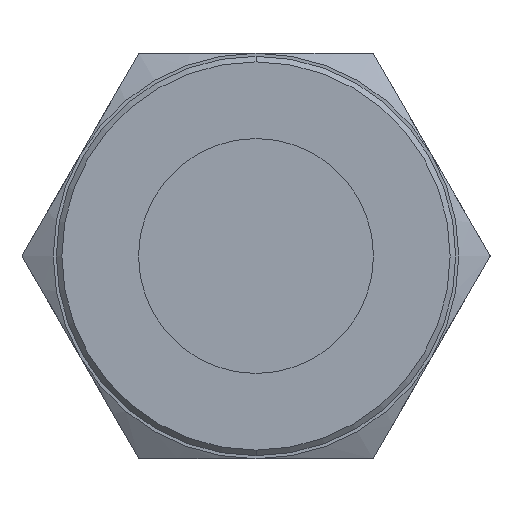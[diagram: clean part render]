
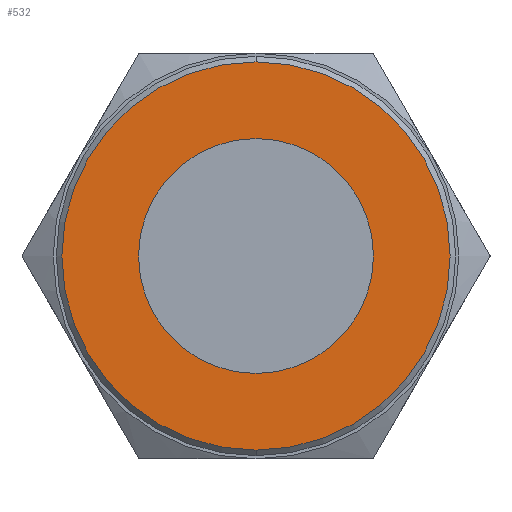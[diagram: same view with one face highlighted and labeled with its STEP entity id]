
A CAD part, left-side view. The second image highlights one B-rep face of the part: STEP entity #532.
In plain terms, the highlighted planar face has unit normal (-1, 0, 0).
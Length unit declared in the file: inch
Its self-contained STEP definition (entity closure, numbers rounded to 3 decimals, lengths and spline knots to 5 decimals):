
#152 = DIRECTION ( 'NONE',  ( 0., 0., -1. ) ) ;
#532 = ADVANCED_FACE ( 'NONE', ( #2415, #7448 ), #8103, .F. ) ;
#672 = VERTEX_POINT ( 'NONE', #14270 ) ;
#1213 = DIRECTION ( 'NONE',  ( 1., 0., 0. ) ) ;
#1222 = EDGE_CURVE ( 'NONE', #12098, #8469, #4911, .T. ) ;
#1471 = DIRECTION ( 'NONE',  ( -1., 0., 0. ) ) ;
#2013 = DIRECTION ( 'NONE',  ( 1., 0., 0. ) ) ;
#2373 = EDGE_CURVE ( 'NONE', #5119, #672, #4509, .T. ) ;
#2415 = FACE_OUTER_BOUND ( 'NONE', #2640, .T. ) ;
#2640 = EDGE_LOOP ( 'NONE', ( #3674, #3772 ) ) ;
#3069 = DIRECTION ( 'NONE',  ( 0., 0., -1. ) ) ;
#3674 = ORIENTED_EDGE ( 'NONE', *, *, #1222, .T. ) ;
#3683 = CARTESIAN_POINT ( 'NONE',  ( -0.392, 0., 0. ) ) ;
#3772 = ORIENTED_EDGE ( 'NONE', *, *, #7785, .T. ) ;
#4383 = AXIS2_PLACEMENT_3D ( 'NONE', #7731, #1471, #152 ) ;
#4509 = CIRCLE ( 'NONE', #11881, 0.2535 ) ;
#4521 = DIRECTION ( 'NONE',  ( -1., 0., 0. ) ) ;
#4839 = EDGE_LOOP ( 'NONE', ( #15818, #10134 ) ) ;
#4911 = CIRCLE ( 'NONE', #4383, 0.419 ) ;
#5119 = VERTEX_POINT ( 'NONE', #12795 ) ;
#7251 = EDGE_CURVE ( 'NONE', #672, #5119, #15826, .T. ) ;
#7448 = FACE_BOUND ( 'NONE', #4839, .T. ) ;
#7731 = CARTESIAN_POINT ( 'NONE',  ( -0.392, 0., 0. ) ) ;
#7785 = EDGE_CURVE ( 'NONE', #8469, #12098, #14544, .T. ) ;
#7852 = DIRECTION ( 'NONE',  ( 1., 0., 0. ) ) ;
#8103 = PLANE ( 'NONE',  #11418 ) ;
#8469 = VERTEX_POINT ( 'NONE', #9718 ) ;
#8751 = AXIS2_PLACEMENT_3D ( 'NONE', #13293, #2013, #14017 ) ;
#9718 = CARTESIAN_POINT ( 'NONE',  ( -0.392, 0., 0.419 ) ) ;
#10113 = DIRECTION ( 'NONE',  ( 0., 0., -1. ) ) ;
#10134 = ORIENTED_EDGE ( 'NONE', *, *, #2373, .T. ) ;
#10574 = CARTESIAN_POINT ( 'NONE',  ( -0.392, -0.50518, 0. ) ) ;
#11418 = AXIS2_PLACEMENT_3D ( 'NONE', #10574, #7852, #3069 ) ;
#11881 = AXIS2_PLACEMENT_3D ( 'NONE', #3683, #1213, #10113 ) ;
#12098 = VERTEX_POINT ( 'NONE', #14491 ) ;
#12102 = DIRECTION ( 'NONE',  ( 0., 0., -1. ) ) ;
#12795 = CARTESIAN_POINT ( 'NONE',  ( -0.392, 0., 0.2535 ) ) ;
#13293 = CARTESIAN_POINT ( 'NONE',  ( -0.392, 0., 0. ) ) ;
#14017 = DIRECTION ( 'NONE',  ( 0., 0., -1. ) ) ;
#14270 = CARTESIAN_POINT ( 'NONE',  ( -0.392, 0., -0.2535 ) ) ;
#14287 = AXIS2_PLACEMENT_3D ( 'NONE', #15781, #4521, #12102 ) ;
#14491 = CARTESIAN_POINT ( 'NONE',  ( -0.392, 0., -0.419 ) ) ;
#14544 = CIRCLE ( 'NONE', #14287, 0.419 ) ;
#15781 = CARTESIAN_POINT ( 'NONE',  ( -0.392, 0., 0. ) ) ;
#15818 = ORIENTED_EDGE ( 'NONE', *, *, #7251, .T. ) ;
#15826 = CIRCLE ( 'NONE', #8751, 0.2535 ) ;
